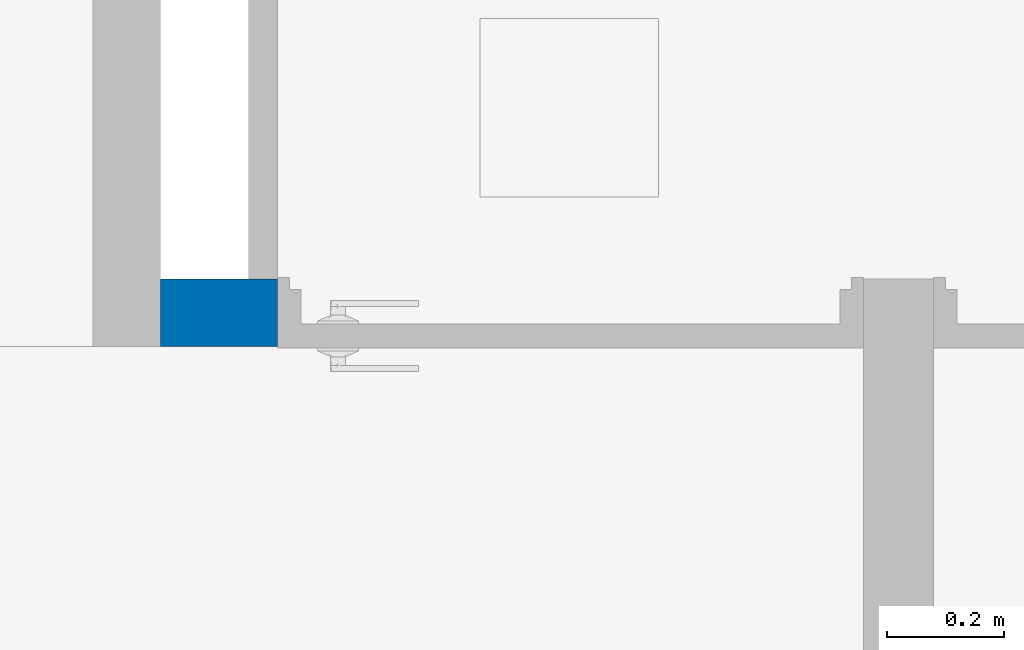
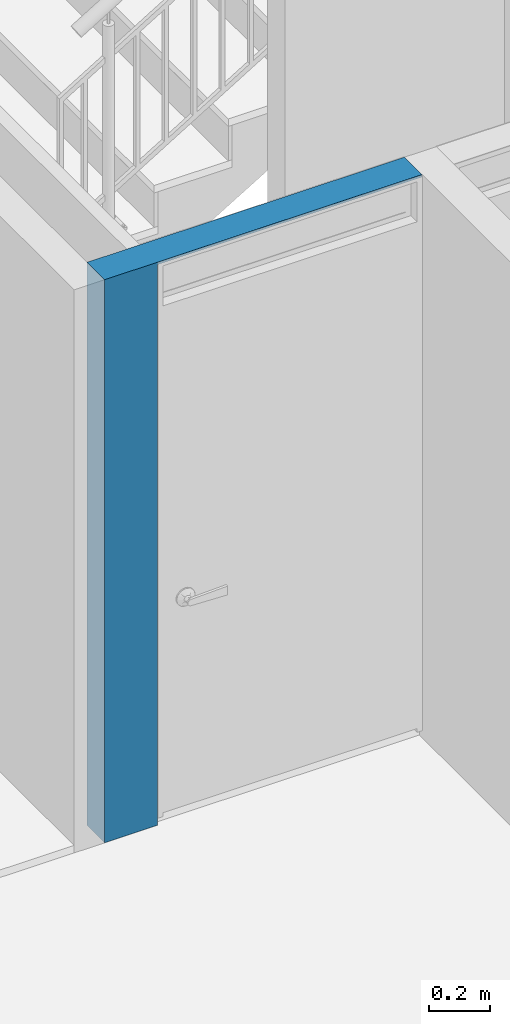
# One storey, part 29 of 48: 1 wall, 1 opening.
"""IFC4 building model written with IfcOpenShell, lengths in metres."""

from ifc_helpers import new_model, entity, si_unit, converted_unit, derived_unit, direction, frame, origin, place, context, subcontext, project, spatial, indexed_curve, outline, extrude, polygons, material, type_object, element, save


model = new_model("IFC4")

# Units and contexts
model_context = context("Model", 3, precision=1e-05, world=origin(), true_north=direction((6.123031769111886e-17, 1.0)))
body_context = subcontext(model_context, "Body", "Model", "MODEL_VIEW")
ifc_project = project(units=[si_unit("LENGTHUNIT", "METRE"), si_unit("AREAUNIT", "SQUARE_METRE"), si_unit("VOLUMEUNIT", "CUBIC_METRE"), converted_unit("PLANEANGLEUNIT", "DEGREE", entity("IfcRatioMeasure", 0.017453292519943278), si_unit("PLANEANGLEUNIT", "RADIAN"), dimensions=[0, 0, 0, 0, 0, 0, 0]), si_unit("MASSUNIT", "GRAM", prefix="KILO"), derived_unit("MASSDENSITYUNIT", [(si_unit("MASSUNIT", "GRAM", prefix="KILO"), 1), (si_unit("LENGTHUNIT", "METRE"), -3)]), derived_unit("IONCONCENTRATIONUNIT", [(si_unit("MASSUNIT", "GRAM", prefix="KILO"), 1), (si_unit("LENGTHUNIT", "METRE"), -3)]), derived_unit("MOMENTOFINERTIAUNIT", [(si_unit("LENGTHUNIT", "METRE"), 4)]), si_unit("TIMEUNIT", "SECOND"), si_unit("FREQUENCYUNIT", "HERTZ"), si_unit("THERMODYNAMICTEMPERATUREUNIT", "DEGREE_CELSIUS"), derived_unit("THERMALTRANSMITTANCEUNIT", [(si_unit("MASSUNIT", "GRAM", prefix="KILO"), 1), (si_unit("THERMODYNAMICTEMPERATUREUNIT", "KELVIN"), -1), (si_unit("TIMEUNIT", "SECOND"), -3)]), derived_unit("THERMALCONDUCTANCEUNIT", [(si_unit("MASSUNIT", "GRAM", prefix="KILO"), 1), (si_unit("THERMODYNAMICTEMPERATUREUNIT", "KELVIN"), -1), (si_unit("TIMEUNIT", "SECOND"), -3), (si_unit("LENGTHUNIT", "METRE"), 1)]), derived_unit("VOLUMETRICFLOWRATEUNIT", [(si_unit("LENGTHUNIT", "METRE"), 3), (si_unit("TIMEUNIT", "SECOND"), -1)]), derived_unit("MASSFLOWRATEUNIT", [(si_unit("MASSUNIT", "GRAM", prefix="KILO"), 1), (si_unit("TIMEUNIT", "SECOND"), -1)]), derived_unit("ROTATIONALFREQUENCYUNIT", [(si_unit("TIMEUNIT", "SECOND"), -1)]), si_unit("ELECTRICCURRENTUNIT", "AMPERE"), si_unit("ELECTRICVOLTAGEUNIT", "VOLT"), si_unit("POWERUNIT", "WATT"), si_unit("FORCEUNIT", "NEWTON", prefix="KILO"), si_unit("ILLUMINANCEUNIT", "LUX"), si_unit("LUMINOUSFLUXUNIT", "LUMEN"), si_unit("LUMINOUSINTENSITYUNIT", "CANDELA"), derived_unit("USERDEFINED", [(si_unit("MASSUNIT", "GRAM", prefix="KILO"), -1), (si_unit("LENGTHUNIT", "METRE"), -2), (si_unit("TIMEUNIT", "SECOND"), 3), (si_unit("LUMINOUSFLUXUNIT", "LUMEN"), 1)]), derived_unit("USERDEFINED", [(si_unit("MASSUNIT", "GRAM", prefix="KILO"), 1), (si_unit("TIMEUNIT", "SECOND"), -3), (si_unit("LENGTHUNIT", "METRE"), 3), (si_unit("ELECTRICCURRENTUNIT", "AMPERE"), -2)]), derived_unit("SOUNDPOWERUNIT", [(si_unit("MASSUNIT", "GRAM", prefix="KILO"), 1), (si_unit("TIMEUNIT", "SECOND"), -3), (si_unit("LENGTHUNIT", "METRE"), 2)]), derived_unit("SOUNDPRESSUREUNIT", [(si_unit("MASSUNIT", "GRAM", prefix="KILO"), 1), (si_unit("LENGTHUNIT", "METRE"), -1), (si_unit("TIMEUNIT", "SECOND"), -2)]), derived_unit("LINEARVELOCITYUNIT", [(si_unit("LENGTHUNIT", "METRE"), 1), (si_unit("TIMEUNIT", "SECOND"), -1)]), si_unit("PRESSUREUNIT", "PASCAL"), derived_unit("USERDEFINED", [(si_unit("MASSUNIT", "GRAM", prefix="KILO"), 1), (si_unit("LENGTHUNIT", "METRE"), -2), (si_unit("TIMEUNIT", "SECOND"), -2)]), derived_unit("LINEARFORCEUNIT", [(si_unit("MASSUNIT", "GRAM", prefix="KILO"), 1), (si_unit("TIMEUNIT", "SECOND"), -2)]), derived_unit("PLANARFORCEUNIT", [(si_unit("MASSUNIT", "GRAM", prefix="KILO"), 1), (si_unit("LENGTHUNIT", "METRE"), -1), (si_unit("TIMEUNIT", "SECOND"), -2)]), derived_unit("SPECIFICHEATCAPACITYUNIT", [(si_unit("THERMODYNAMICTEMPERATUREUNIT", "KELVIN"), -1), (si_unit("LENGTHUNIT", "METRE"), 2), (si_unit("TIMEUNIT", "SECOND"), -2)]), derived_unit("HEATINGVALUEUNIT", [(si_unit("LENGTHUNIT", "METRE"), 2), (si_unit("TIMEUNIT", "SECOND"), -2)]), derived_unit("VAPORPERMEABILITYUNIT", [(si_unit("LENGTHUNIT", "METRE"), -1), (si_unit("TIMEUNIT", "SECOND"), 1)]), derived_unit("DYNAMICVISCOSITYUNIT", [(si_unit("MASSUNIT", "GRAM", prefix="KILO"), 1), (si_unit("TIMEUNIT", "SECOND"), -1), (si_unit("LENGTHUNIT", "METRE"), -1)]), derived_unit("THERMALEXPANSIONCOEFFICIENTUNIT", [(si_unit("THERMODYNAMICTEMPERATUREUNIT", "KELVIN"), -1)]), derived_unit("MODULUSOFELASTICITYUNIT", [(si_unit("MASSUNIT", "GRAM", prefix="KILO"), 1), (si_unit("LENGTHUNIT", "METRE"), -1), (si_unit("TIMEUNIT", "SECOND"), -2)]), derived_unit("ISOTHERMALMOISTURECAPACITYUNIT", [(si_unit("LENGTHUNIT", "METRE"), 3), (si_unit("MASSUNIT", "GRAM", prefix="KILO"), -1)]), derived_unit("MOISTUREDIFFUSIVITYUNIT", [(si_unit("TIMEUNIT", "SECOND"), -1), (si_unit("LENGTHUNIT", "METRE"), 2)])], contexts=[model_context])

# Site, building, storey
site_placement = place(None, origin())
site = spatial("IfcSite", under=ifc_project, at=site_placement, Name="Default", CompositionType="ELEMENT")
building_placement = place(site_placement, origin())
building = spatial("IfcBuilding", under=site, at=building_placement, CompositionType="ELEMENT")
storey_placement = place(building_placement, frame((0.0, 0.0, 4.700000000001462)))
storey = spatial("IfcBuildingStorey", under=building, at=storey_placement, Name="Nivel 3", CompositionType="ELEMENT", Elevation=4.700000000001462)

# Wall, opening
ifc_material = material(Name="LADRILLO CLARO", Category="Materials")
wall_type = type_object("IfcWallType", Name="Basic Wall:B2010 - 0.115m - MI mampostería no estructural - Ladrillo", PredefinedType="STANDARD")
wall_placement = place(storey_placement, frame((8.062500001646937, -9.082499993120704, 0.0)))
wall = element("IfcWall", 1, at=wall_placement, inside=storey, type_object=wall_type, material=ifc_material, Name="Basic Wall:B2010 - 0.115m - MI mampostería no estructural - Ladrillo", ObjectType="Basic Wall:B2010 - 0.115m - MI mampostería no estructural - Ladrillo", PredefinedType="NOTDEFINED", context=body_context, shape_type="Tessellation", body=[
    polygons([(1.199999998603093, -0.057499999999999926, 2.250000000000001), (3.815772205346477e-17, -0.057499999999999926, 2.250000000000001), (3.815772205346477e-17, -0.057499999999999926, 0.0), (0.19999999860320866, -0.057499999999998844, 0.0), (0.19999999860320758, -0.057499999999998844, 2.2399999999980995), (1.199999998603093, -0.057499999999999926, 2.2399999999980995), (-1.509021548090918e-15, 0.057499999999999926, 2.250000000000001), (0.1499999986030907, 0.057499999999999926, 2.2499999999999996), (0.19999999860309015, 0.05750000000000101, 2.2499999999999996), (1.1999999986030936, 0.057499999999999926, 2.250000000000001), (1.1999999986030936, 0.057499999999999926, 2.2399999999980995), (0.1999999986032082, 0.05750000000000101, 2.2399999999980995), (0.1999999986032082, 0.05750000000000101, 0.0), (0.1499999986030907, 0.057499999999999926, 0.0), (-1.509021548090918e-15, 0.057499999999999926, 0.0)], [[[1, 2, 3, 4, 5, 6]], [[7, 8, 9, 10, 11, 12, 13, 14, 15]], [[3, 15, 14, 13, 4]], [[10, 1, 6, 11]], [[2, 1, 10, 9, 8, 7]], [[3, 2, 7, 15]], [[12, 5, 4, 13]], [[5, 12, 11, 6]]], closed=True),
])
opening_placement = place(wall_placement, frame((1.1999999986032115, 0.057499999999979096, 0.0)))
element("IfcOpeningElement", 2, at=opening_placement, cuts=wall, Name="C1030 - Puerta batiente - Madera + Metal:C1030 - 1.00 x 2.24 - Puerta batiente - Madera:1", PredefinedType="OPENING", context=body_context, shape_type="SweptSolid", body=[
    extrude(outline(indexed_curve([(0.0, 0.999999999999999), (0.0, -5.404556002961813e-30), (2.239999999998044, -5.404556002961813e-30), (2.2399999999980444, 0.999999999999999), (0.0, 0.999999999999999)], self_intersect=False)), frame((0.0, 0.0, 0.0), z_axis=(0.0, -1.0, 0.0), x_axis=(0.0, 0.0, 1.0)), (0.0, 0.0, 1.0), 0.115),
])

save(model, "model.ifc")
